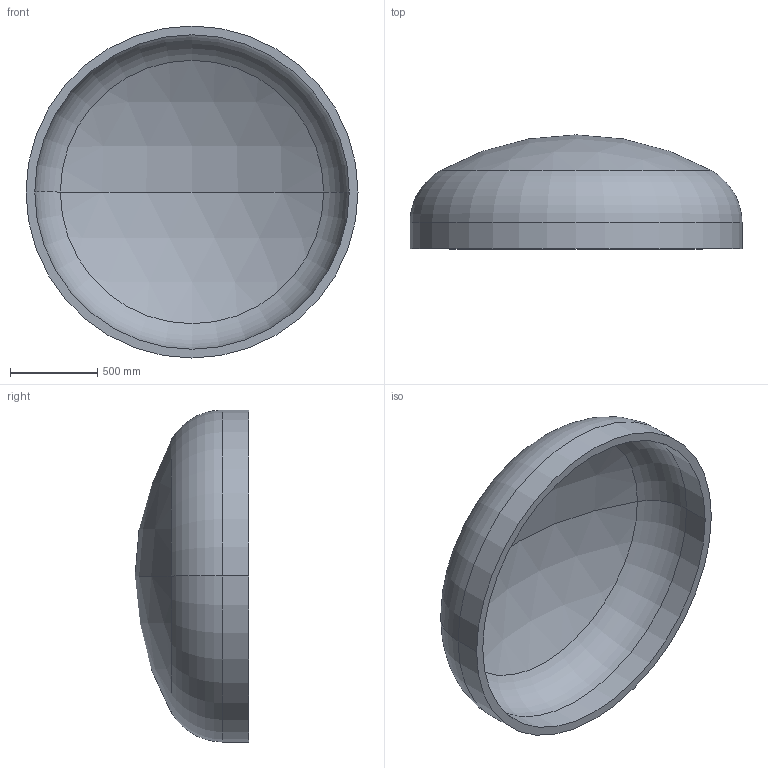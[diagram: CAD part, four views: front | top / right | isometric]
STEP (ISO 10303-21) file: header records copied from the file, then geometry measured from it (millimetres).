
FILE_DESCRIPTION (( 'STEP AP203' ), '1' );
FILE_NAME ('DIN 28013 Korbbogenform_-_Boden DIN 28013 - 1900 x 150 - I - s=50.step', '2016-07-01T13:13:00', ( '' ), ( '' ), 'SwSTEP 2.0', 'SolidWorks 2013', '' );
FILE_SCHEMA (( 'CONFIG_CONTROL_DESIGN' ));
Length unit declared in the file: millimetre
Products named in the file (1): DIN 28013 Korbbogenform_-_Boden DIN 28013 - 1900 x 150 - I - s=50
Bounding box: 1900 x 651.92 x 1900 mm (x, y, z)
Volume: 232939521.9 mm3; surface area: 9613411.4 mm2
Topology: 1 solids, 1 shells, 13 faces, 24 edges, 14 vertices
Faces by surface type: torus 4, cylinder 4, sphere 4, plane 1
Entity records: 407 total; most frequent: DIRECTION 72, CARTESIAN_POINT 52, ORIENTED_EDGE 48, AXIS2_PLACEMENT_3D 34, EDGE_CURVE 24, CIRCLE 20, VERTEX_POINT 14, EDGE_LOOP 14
